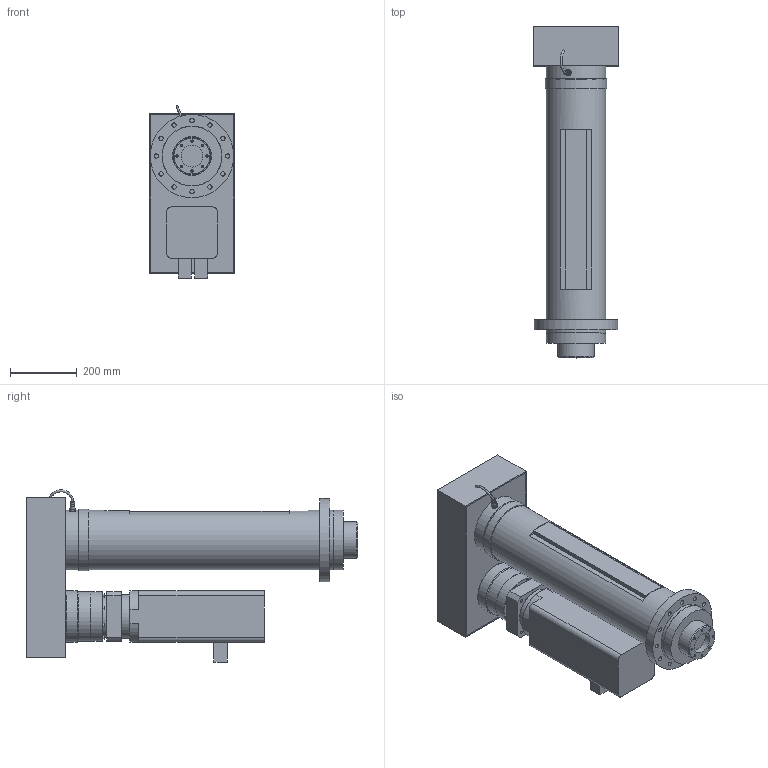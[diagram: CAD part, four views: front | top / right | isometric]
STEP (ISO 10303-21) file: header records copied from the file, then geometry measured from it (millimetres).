
FILE_DESCRIPTION(/* description */ ('Unknown'),/* implementation_level */ '2;1');
FILE_NAME(/* name */ '10 TON-400 ST-OS',/* time_stamp */ '2023-10-17T13:36:14+05:00',/* author */ ('Unknown'),/* organization */ ('Unknown'),/* preprocessor_version */ 'ST-DEVELOPER v18.1',/* originating_system */ 'Solid Edge',/* authorisation */ 'Unknown');
FILE_SCHEMA (('AUTOMOTIVE_DESIGN {1 0 10303 214 3 1 1}'));
Length unit declared in the file: millimetre
Products named in the file (10): 10Ton400Stk; 3; 2; Load Cell 10T; GB; SM; 1; 8; 14; 13
Assembly tree (9 placements, depth 2):
  10Ton400Stk
    3
    2
    Load Cell 10T
    GB
    SM
    1
    8
    14
    13
Bounding box: 258 x 998 x 517.87 mm (x, y, z)
Volume: 45437763.9 mm3; surface area: 2555783.6 mm2
Topology: 9 solids, 11 shells, 519 faces, 1251 edges, 810 vertices
Faces by surface type: plane 278, cylinder 144, cone 73, torus 23, bspline 1
Full cylindrical faces by diameter (mm): 4.134 x4, 6.647 x16, 7 x4, 8.376 x8, 10 x9, 11 x3, 12.8 x2, 13 x19, 13.835 x1, 14 x8, 15 x1, 16 x1, 17.5 x1, 18 x1, 18.5 x1, 20 x1, 38 x1, 40 x1, 45 x1, 50 x1, 66 x1, 72 x1, 80 x3, 110 x2, 112 x1, 117 x1, 120 x1, 125 x1, 130 x3, 131 x1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
Entity records: 16694 total; most frequent: CARTESIAN_POINT 2783, DIRECTION 2230, ORIENTED_EDGE 1880, EDGE_CURVE 940, AXIS2_PLACEMENT_3D 882, FACE_BOUND 842, EDGE_LOOP 806, VERTEX_POINT 730
